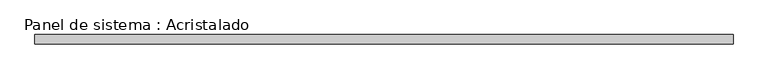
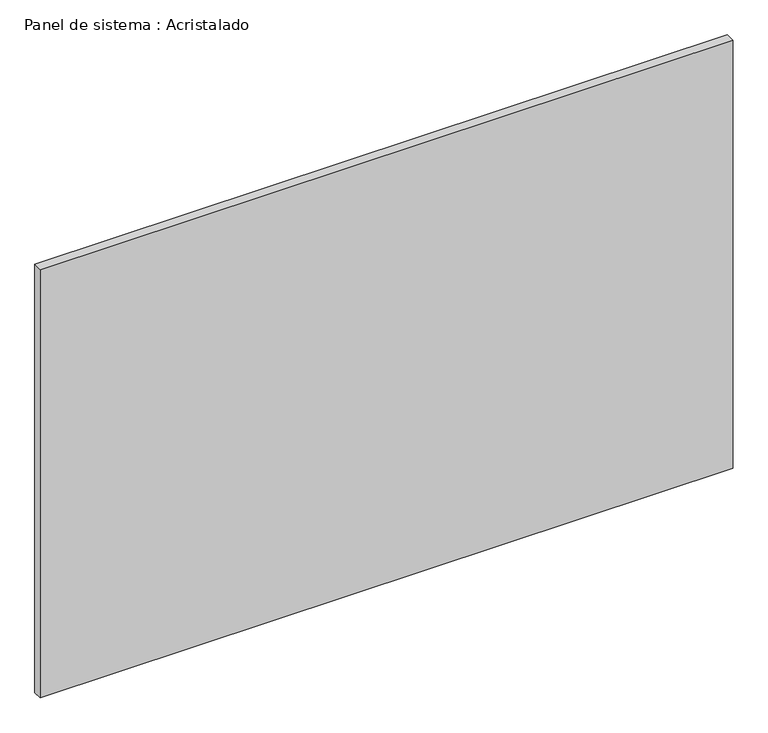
"""IFC4 building model written with IfcOpenShell, lengths in millimetres: plate geometry, Panel de sistema : Acristalado."""

from ifc_helpers import new_model, si_unit, origin, origin_with_axes, place, context, project, spatial, polyline, outline, extrude, source, transform, mapped, element, save


def panel_de_sistema_acristalado_709cfd88(model_context):
    return source(origin(), model_context, "Body", "SweptSolid", [
        extrude(outline(polyline([(765.4770283, -10.0), (-765.4770283, -10.0), (-765.4770283, 10.0), (765.4770283, 10.0), (765.4770283, -10.0)])), origin_with_axes(), (0.0, 0.0, 1.0), 1000.0),
    ])


if __name__ == "__main__":
    model = new_model("IFC4")
    model_context = context("Model", 3, world=origin())
    ifc_project = project(units=[si_unit("LENGTHUNIT", "METRE", prefix="MILLI")], contexts=[model_context])
    site = spatial("IfcSite", under=ifc_project)
    building = spatial("IfcBuilding", under=site)
    placement = place(None, origin())
    panel_de_sistema_acristalado_shape = panel_de_sistema_acristalado_709cfd88(model_context)
    element("IfcPlate", 1, ObjectType="Panel de sistema : Acristalado", at=placement, inside=building, context=model_context, shape_type="MappedRepresentation", body=[
        mapped(panel_de_sistema_acristalado_shape, transform((0.0, 0.0, 0.0), x_axis=(1.0, 0.0, 0.0), y_axis=(0.0, 1.0, 0.0), z_axis=(0.0, 0.0, 1.0))),
    ])
    save(model, "model.ifc")
